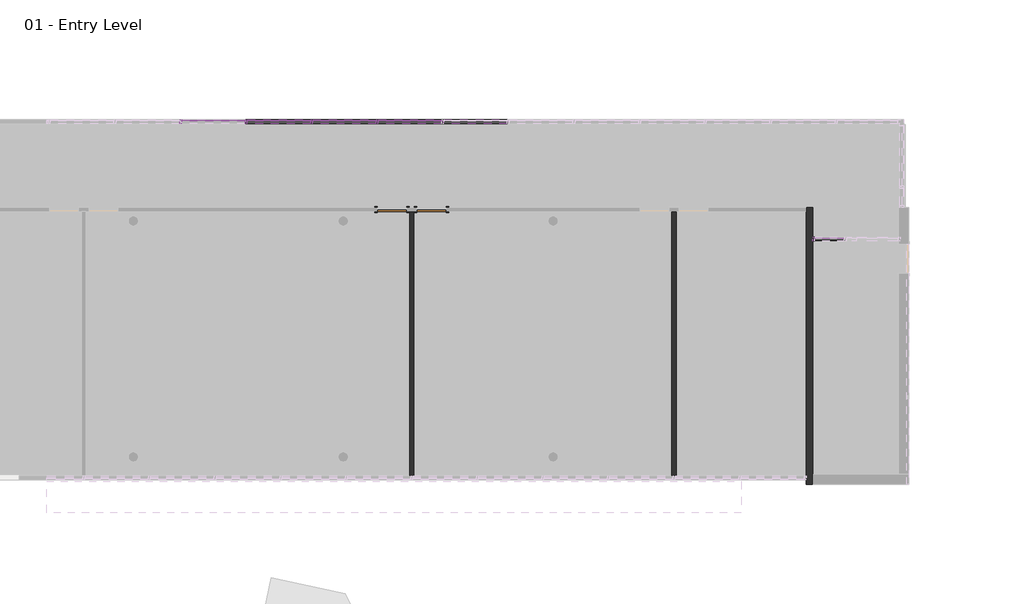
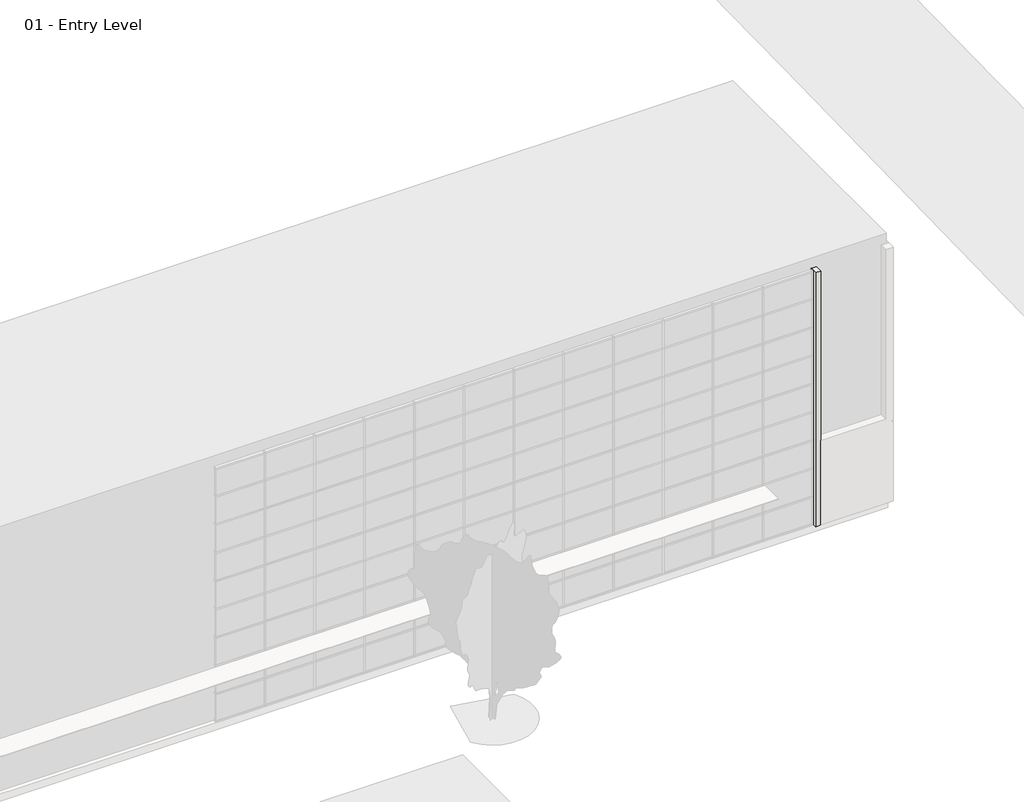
# One storey, part 20 of 34: 82 members, 38 plates, 3 doors, 3 walls.
"""IFC4 building model written with IfcOpenShell, lengths in millimetres."""

from ifc_helpers import new_model, si_unit, origin, origin_with_axes, place, context, project, spatial, polyline, outline, extrude, faceted_brep, transform, mapped, element, save
from components import curtain_wall_sgl_glass_curtain_wall_sgl_glass_ab2568d1, door_a1797ceb, door_a3eb833a, member_2b49869a, member_9193c932, member_391b434c, member_9e90ae50, member_c327c56d, member_a50b3cda, system_panel_glazed_1b9d6098, system_panel_glazed_70da479d, system_panel_glazed_63e32c76, system_panel_glazed_72fe8651

model = new_model("IFC4")

# Units and contexts
model_context = context("Model", 3, world=origin())
ifc_project = project(units=[si_unit("LENGTHUNIT", "METRE", prefix="MILLI")], contexts=[model_context])

# Site, building, storey
site = spatial("IfcSite", under=ifc_project)
building = spatial("IfcBuilding", under=site)
storey = spatial("IfcBuildingStorey", under=building, Name="01 - Entry Level", Elevation=0.0)

# Doors
placement = place(None, origin())
curtain_wall_sgl_glass_curtain_wall_sgl_glass_shape = curtain_wall_sgl_glass_curtain_wall_sgl_glass_ab2568d1(model_context)
element("IfcDoor", 1, ObjectType="Curtain Wall Sgl Glass : Curtain Wall Sgl Glass", at=placement, inside=storey, context=model_context, shape_type="MappedRepresentation", body=[
    mapped(curtain_wall_sgl_glass_curtain_wall_sgl_glass_shape, transform((63869.2207476, 7356.4, 0.0), x_axis=(-1.0, 0.0, 0.0), y_axis=(0.0, -1.0, 0.0), z_axis=(0.0, 0.0, 1.0))),
])
door_shape = door_a1797ceb(model_context)
element("IfcDoor", 2, ObjectType="Single-Flush : 36\" x 84\"", at=placement, inside=storey, context=model_context, shape_type="MappedRepresentation", body=[
    mapped(door_shape, transform((51524.8207476, 8270.8, 0.0), x_axis=(-1.0, 0.0, 0.0), y_axis=(0.0, -1.0, 0.0), z_axis=(0.0, 0.0, 1.0))),
])
door_2_shape = door_a3eb833a(model_context)
element("IfcDoor", 3, ObjectType="Single-Flush : 36\" x 84\"", at=placement, inside=storey, context=model_context, shape_type="MappedRepresentation", body=[
    mapped(door_2_shape, transform((50305.6207476, 8270.8, 0.0), x_axis=(1.0, 0.0, 0.0), y_axis=(0.0, 1.0, 0.0), z_axis=(0.0, 0.0, 1.0))),
])

# Members
member_shape = member_2b49869a(model_context)
element("IfcMember", 4, ObjectType="Rectangular Mullion : 2.5\" x 5\" rectangular", at=placement, inside=storey, context=model_context, shape_type="MappedRepresentation", body=[
    mapped(member_shape, transform((49848.4207476, 11001.3, 9753.6), x_axis=(-1.0, 0.0, 0.0), y_axis=(0.0, 1.0, 0.0), z_axis=(0.0, 0.0, -1.0))),
])
element("IfcMember", 5, ObjectType="Rectangular Mullion : 2.5\" x 5\" rectangular", at=placement, inside=storey, context=model_context, shape_type="MappedRepresentation", body=[
    mapped(member_shape, transform((47816.4207476, 11001.3, 9753.6), x_axis=(-1.0, 0.0, 0.0), y_axis=(0.0, 1.0, 0.0), z_axis=(0.0, 0.0, -1.0))),
])
element("IfcMember", 6, ObjectType="Rectangular Mullion : 2.5\" x 5\" rectangular", at=placement, inside=storey, context=model_context, shape_type="MappedRepresentation", body=[
    mapped(member_shape, transform((45784.4207476, 11001.3, 9753.6), x_axis=(-1.0, 0.0, 0.0), y_axis=(0.0, 1.0, 0.0), z_axis=(0.0, 0.0, -1.0))),
])
element("IfcMember", 7, ObjectType="Rectangular Mullion : 2.5\" x 5\" rectangular", at=placement, inside=storey, context=model_context, shape_type="MappedRepresentation", body=[
    mapped(member_shape, transform((43752.4207476, 11001.3, 9753.6), x_axis=(-1.0, 0.0, 0.0), y_axis=(0.0, 1.0, 0.0), z_axis=(0.0, 0.0, -1.0))),
])
member_2_shape = member_9193c932(model_context)
element("IfcMember", 8, ObjectType="Rectangular Mullion : 2.5\" x 5\" rectangular", at=placement, inside=storey, context=model_context, shape_type="MappedRepresentation", body=[
    mapped(member_2_shape, transform((63348.5207476, 7356.4, 3403.6), x_axis=(-1.0, 0.0, 0.0), y_axis=(0.0, -1.0, 0.0), z_axis=(0.0, 0.0, 1.0))),
])
member_3_shape = member_391b434c(model_context)
element("IfcMember", 9, ObjectType="Rectangular Mullion : 2.5\" x 5\" rectangular", at=placement, inside=storey, context=model_context, shape_type="MappedRepresentation", body=[
    mapped(member_3_shape, transform((51912.1707476, 11001.3, 10972.8), x_axis=(0.0, 0.0, 1.0), y_axis=(0.0, 1.0, 0.0), z_axis=(-1.0, 0.0, 0.0))),
])
element("IfcMember", 10, ObjectType="Rectangular Mullion : 2.5\" x 5\" rectangular", at=placement, inside=storey, context=model_context, shape_type="MappedRepresentation", body=[
    mapped(member_3_shape, transform((49880.1707476, 11001.3, 10972.8), x_axis=(0.0, 0.0, 1.0), y_axis=(0.0, 1.0, 0.0), z_axis=(-1.0, 0.0, 0.0))),
])
element("IfcMember", 11, ObjectType="Rectangular Mullion : 2.5\" x 5\" rectangular", at=placement, inside=storey, context=model_context, shape_type="MappedRepresentation", body=[
    mapped(member_3_shape, transform((47848.1707476, 11001.3, 10972.8), x_axis=(0.0, 0.0, 1.0), y_axis=(0.0, 1.0, 0.0), z_axis=(-1.0, 0.0, 0.0))),
])
element("IfcMember", 12, ObjectType="Rectangular Mullion : 2.5\" x 5\" rectangular", at=placement, inside=storey, context=model_context, shape_type="MappedRepresentation", body=[
    mapped(member_3_shape, transform((45816.1707476, 11001.3, 10972.8), x_axis=(0.0, 0.0, 1.0), y_axis=(0.0, 1.0, 0.0), z_axis=(-1.0, 0.0, 0.0))),
])
element("IfcMember", 13, ObjectType="Rectangular Mullion : 2.5\" x 5\" rectangular", at=placement, inside=storey, context=model_context, shape_type="MappedRepresentation", body=[
    mapped(member_3_shape, transform((51848.6707476, 11001.3, 0.0), x_axis=(0.0, 0.0, -1.0), y_axis=(0.0, 1.0, 0.0), z_axis=(1.0, 0.0, 0.0))),
])
element("IfcMember", 14, ObjectType="Rectangular Mullion : 2.5\" x 5\" rectangular", at=placement, inside=storey, context=model_context, shape_type="MappedRepresentation", body=[
    mapped(member_3_shape, transform((49816.6707476, 11001.3, 0.0), x_axis=(0.0, 0.0, -1.0), y_axis=(0.0, 1.0, 0.0), z_axis=(1.0, 0.0, 0.0))),
])
element("IfcMember", 15, ObjectType="Rectangular Mullion : 2.5\" x 5\" rectangular", at=placement, inside=storey, context=model_context, shape_type="MappedRepresentation", body=[
    mapped(member_3_shape, transform((47784.6707476, 11001.3, 0.0), x_axis=(0.0, 0.0, -1.0), y_axis=(0.0, 1.0, 0.0), z_axis=(1.0, 0.0, 0.0))),
])
element("IfcMember", 16, ObjectType="Rectangular Mullion : 2.5\" x 5\" rectangular", at=placement, inside=storey, context=model_context, shape_type="MappedRepresentation", body=[
    mapped(member_3_shape, transform((45752.6707476, 11001.3, 0.0), x_axis=(0.0, 0.0, -1.0), y_axis=(0.0, 1.0, 0.0), z_axis=(1.0, 0.0, 0.0))),
])
member_4_shape = member_9e90ae50(model_context)
element("IfcMember", 17, ObjectType="Rectangular Mullion : 2.5\" x 5\" rectangular", at=placement, inside=storey, context=model_context, shape_type="MappedRepresentation", body=[
    mapped(member_4_shape, transform((51912.1707476, 11001.3, 1219.2), x_axis=(0.0, 0.0, 1.0), y_axis=(0.0, 1.0, 0.0), z_axis=(-1.0, 0.0, 0.0))),
])
element("IfcMember", 18, ObjectType="Rectangular Mullion : 2.5\" x 5\" rectangular", at=placement, inside=storey, context=model_context, shape_type="MappedRepresentation", body=[
    mapped(member_4_shape, transform((49880.1707476, 11001.3, 1219.2), x_axis=(0.0, 0.0, 1.0), y_axis=(0.0, 1.0, 0.0), z_axis=(-1.0, 0.0, 0.0))),
])
element("IfcMember", 19, ObjectType="Rectangular Mullion : 2.5\" x 5\" rectangular", at=placement, inside=storey, context=model_context, shape_type="MappedRepresentation", body=[
    mapped(member_4_shape, transform((47848.1707476, 11001.3, 1219.2), x_axis=(0.0, 0.0, 1.0), y_axis=(0.0, 1.0, 0.0), z_axis=(-1.0, 0.0, 0.0))),
])
element("IfcMember", 20, ObjectType="Rectangular Mullion : 2.5\" x 5\" rectangular", at=placement, inside=storey, context=model_context, shape_type="MappedRepresentation", body=[
    mapped(member_4_shape, transform((45816.1707476, 11001.3, 1219.2), x_axis=(0.0, 0.0, 1.0), y_axis=(0.0, 1.0, 0.0), z_axis=(-1.0, 0.0, 0.0))),
])
element("IfcMember", 21, ObjectType="Rectangular Mullion : 2.5\" x 5\" rectangular", at=placement, inside=storey, context=model_context, shape_type="MappedRepresentation", body=[
    mapped(member_4_shape, transform((51912.1707476, 11001.3, 2438.4), x_axis=(0.0, 0.0, 1.0), y_axis=(0.0, 1.0, 0.0), z_axis=(-1.0, 0.0, 0.0))),
])
element("IfcMember", 22, ObjectType="Rectangular Mullion : 2.5\" x 5\" rectangular", at=placement, inside=storey, context=model_context, shape_type="MappedRepresentation", body=[
    mapped(member_4_shape, transform((49880.1707476, 11001.3, 2438.4), x_axis=(0.0, 0.0, 1.0), y_axis=(0.0, 1.0, 0.0), z_axis=(-1.0, 0.0, 0.0))),
])
element("IfcMember", 23, ObjectType="Rectangular Mullion : 2.5\" x 5\" rectangular", at=placement, inside=storey, context=model_context, shape_type="MappedRepresentation", body=[
    mapped(member_4_shape, transform((47848.1707476, 11001.3, 2438.4), x_axis=(0.0, 0.0, 1.0), y_axis=(0.0, 1.0, 0.0), z_axis=(-1.0, 0.0, 0.0))),
])
element("IfcMember", 24, ObjectType="Rectangular Mullion : 2.5\" x 5\" rectangular", at=placement, inside=storey, context=model_context, shape_type="MappedRepresentation", body=[
    mapped(member_4_shape, transform((45816.1707476, 11001.3, 2438.4), x_axis=(0.0, 0.0, 1.0), y_axis=(0.0, 1.0, 0.0), z_axis=(-1.0, 0.0, 0.0))),
])
element("IfcMember", 25, ObjectType="Rectangular Mullion : 2.5\" x 5\" rectangular", at=placement, inside=storey, context=model_context, shape_type="MappedRepresentation", body=[
    mapped(member_4_shape, transform((51912.1707476, 11001.3, 3657.6), x_axis=(0.0, 0.0, 1.0), y_axis=(0.0, 1.0, 0.0), z_axis=(-1.0, 0.0, 0.0))),
])
element("IfcMember", 26, ObjectType="Rectangular Mullion : 2.5\" x 5\" rectangular", at=placement, inside=storey, context=model_context, shape_type="MappedRepresentation", body=[
    mapped(member_4_shape, transform((49880.1707476, 11001.3, 3657.6), x_axis=(0.0, 0.0, 1.0), y_axis=(0.0, 1.0, 0.0), z_axis=(-1.0, 0.0, 0.0))),
])
element("IfcMember", 27, ObjectType="Rectangular Mullion : 2.5\" x 5\" rectangular", at=placement, inside=storey, context=model_context, shape_type="MappedRepresentation", body=[
    mapped(member_4_shape, transform((47848.1707476, 11001.3, 3657.6), x_axis=(0.0, 0.0, 1.0), y_axis=(0.0, 1.0, 0.0), z_axis=(-1.0, 0.0, 0.0))),
])
element("IfcMember", 28, ObjectType="Rectangular Mullion : 2.5\" x 5\" rectangular", at=placement, inside=storey, context=model_context, shape_type="MappedRepresentation", body=[
    mapped(member_4_shape, transform((45816.1707476, 11001.3, 3657.6), x_axis=(0.0, 0.0, 1.0), y_axis=(0.0, 1.0, 0.0), z_axis=(-1.0, 0.0, 0.0))),
])
element("IfcMember", 29, ObjectType="Rectangular Mullion : 2.5\" x 5\" rectangular", at=placement, inside=storey, context=model_context, shape_type="MappedRepresentation", body=[
    mapped(member_4_shape, transform((51912.1707476, 11001.3, 4876.8), x_axis=(0.0, 0.0, 1.0), y_axis=(0.0, 1.0, 0.0), z_axis=(-1.0, 0.0, 0.0))),
])
element("IfcMember", 30, ObjectType="Rectangular Mullion : 2.5\" x 5\" rectangular", at=placement, inside=storey, context=model_context, shape_type="MappedRepresentation", body=[
    mapped(member_4_shape, transform((49880.1707476, 11001.3, 4876.8), x_axis=(0.0, 0.0, 1.0), y_axis=(0.0, 1.0, 0.0), z_axis=(-1.0, 0.0, 0.0))),
])
element("IfcMember", 31, ObjectType="Rectangular Mullion : 2.5\" x 5\" rectangular", at=placement, inside=storey, context=model_context, shape_type="MappedRepresentation", body=[
    mapped(member_4_shape, transform((47848.1707476, 11001.3, 4876.8), x_axis=(0.0, 0.0, 1.0), y_axis=(0.0, 1.0, 0.0), z_axis=(-1.0, 0.0, 0.0))),
])
element("IfcMember", 32, ObjectType="Rectangular Mullion : 2.5\" x 5\" rectangular", at=placement, inside=storey, context=model_context, shape_type="MappedRepresentation", body=[
    mapped(member_4_shape, transform((45816.1707476, 11001.3, 4876.8), x_axis=(0.0, 0.0, 1.0), y_axis=(0.0, 1.0, 0.0), z_axis=(-1.0, 0.0, 0.0))),
])
element("IfcMember", 33, ObjectType="Rectangular Mullion : 2.5\" x 5\" rectangular", at=placement, inside=storey, context=model_context, shape_type="MappedRepresentation", body=[
    mapped(member_4_shape, transform((51912.1707476, 11001.3, 6096.0), x_axis=(0.0, 0.0, 1.0), y_axis=(0.0, 1.0, 0.0), z_axis=(-1.0, 0.0, 0.0))),
])
element("IfcMember", 34, ObjectType="Rectangular Mullion : 2.5\" x 5\" rectangular", at=placement, inside=storey, context=model_context, shape_type="MappedRepresentation", body=[
    mapped(member_4_shape, transform((49880.1707476, 11001.3, 6096.0), x_axis=(0.0, 0.0, 1.0), y_axis=(0.0, 1.0, 0.0), z_axis=(-1.0, 0.0, 0.0))),
])
element("IfcMember", 35, ObjectType="Rectangular Mullion : 2.5\" x 5\" rectangular", at=placement, inside=storey, context=model_context, shape_type="MappedRepresentation", body=[
    mapped(member_4_shape, transform((47848.1707476, 11001.3, 6096.0), x_axis=(0.0, 0.0, 1.0), y_axis=(0.0, 1.0, 0.0), z_axis=(-1.0, 0.0, 0.0))),
])
element("IfcMember", 36, ObjectType="Rectangular Mullion : 2.5\" x 5\" rectangular", at=placement, inside=storey, context=model_context, shape_type="MappedRepresentation", body=[
    mapped(member_4_shape, transform((45816.1707476, 11001.3, 6096.0), x_axis=(0.0, 0.0, 1.0), y_axis=(0.0, 1.0, 0.0), z_axis=(-1.0, 0.0, 0.0))),
])
element("IfcMember", 37, ObjectType="Rectangular Mullion : 2.5\" x 5\" rectangular", at=placement, inside=storey, context=model_context, shape_type="MappedRepresentation", body=[
    mapped(member_4_shape, transform((51912.1707476, 11001.3, 7315.2), x_axis=(0.0, 0.0, 1.0), y_axis=(0.0, 1.0, 0.0), z_axis=(-1.0, 0.0, 0.0))),
])
element("IfcMember", 38, ObjectType="Rectangular Mullion : 2.5\" x 5\" rectangular", at=placement, inside=storey, context=model_context, shape_type="MappedRepresentation", body=[
    mapped(member_4_shape, transform((49880.1707476, 11001.3, 7315.2), x_axis=(0.0, 0.0, 1.0), y_axis=(0.0, 1.0, 0.0), z_axis=(-1.0, 0.0, 0.0))),
])
element("IfcMember", 39, ObjectType="Rectangular Mullion : 2.5\" x 5\" rectangular", at=placement, inside=storey, context=model_context, shape_type="MappedRepresentation", body=[
    mapped(member_4_shape, transform((47848.1707476, 11001.3, 7315.2), x_axis=(0.0, 0.0, 1.0), y_axis=(0.0, 1.0, 0.0), z_axis=(-1.0, 0.0, 0.0))),
])
element("IfcMember", 40, ObjectType="Rectangular Mullion : 2.5\" x 5\" rectangular", at=placement, inside=storey, context=model_context, shape_type="MappedRepresentation", body=[
    mapped(member_4_shape, transform((45816.1707476, 11001.3, 7315.2), x_axis=(0.0, 0.0, 1.0), y_axis=(0.0, 1.0, 0.0), z_axis=(-1.0, 0.0, 0.0))),
])
element("IfcMember", 41, ObjectType="Rectangular Mullion : 2.5\" x 5\" rectangular", at=placement, inside=storey, context=model_context, shape_type="MappedRepresentation", body=[
    mapped(member_4_shape, transform((51912.1707476, 11001.3, 8534.4), x_axis=(0.0, 0.0, 1.0), y_axis=(0.0, 1.0, 0.0), z_axis=(-1.0, 0.0, 0.0))),
])
element("IfcMember", 42, ObjectType="Rectangular Mullion : 2.5\" x 5\" rectangular", at=placement, inside=storey, context=model_context, shape_type="MappedRepresentation", body=[
    mapped(member_4_shape, transform((49880.1707476, 11001.3, 8534.4), x_axis=(0.0, 0.0, 1.0), y_axis=(0.0, 1.0, 0.0), z_axis=(-1.0, 0.0, 0.0))),
])
element("IfcMember", 43, ObjectType="Rectangular Mullion : 2.5\" x 5\" rectangular", at=placement, inside=storey, context=model_context, shape_type="MappedRepresentation", body=[
    mapped(member_4_shape, transform((47848.1707476, 11001.3, 8534.4), x_axis=(0.0, 0.0, 1.0), y_axis=(0.0, 1.0, 0.0), z_axis=(-1.0, 0.0, 0.0))),
])
element("IfcMember", 44, ObjectType="Rectangular Mullion : 2.5\" x 5\" rectangular", at=placement, inside=storey, context=model_context, shape_type="MappedRepresentation", body=[
    mapped(member_4_shape, transform((45816.1707476, 11001.3, 8534.4), x_axis=(0.0, 0.0, 1.0), y_axis=(0.0, 1.0, 0.0), z_axis=(-1.0, 0.0, 0.0))),
])
element("IfcMember", 45, ObjectType="Rectangular Mullion : 2.5\" x 5\" rectangular", at=placement, inside=storey, context=model_context, shape_type="MappedRepresentation", body=[
    mapped(member_4_shape, transform((51912.1707476, 11001.3, 9753.6), x_axis=(0.0, 0.0, 1.0), y_axis=(0.0, 1.0, 0.0), z_axis=(-1.0, 0.0, 0.0))),
])
element("IfcMember", 46, ObjectType="Rectangular Mullion : 2.5\" x 5\" rectangular", at=placement, inside=storey, context=model_context, shape_type="MappedRepresentation", body=[
    mapped(member_4_shape, transform((49880.1707476, 11001.3, 9753.6), x_axis=(0.0, 0.0, 1.0), y_axis=(0.0, 1.0, 0.0), z_axis=(-1.0, 0.0, 0.0))),
])
element("IfcMember", 47, ObjectType="Rectangular Mullion : 2.5\" x 5\" rectangular", at=placement, inside=storey, context=model_context, shape_type="MappedRepresentation", body=[
    mapped(member_4_shape, transform((47848.1707476, 11001.3, 9753.6), x_axis=(0.0, 0.0, 1.0), y_axis=(0.0, 1.0, 0.0), z_axis=(-1.0, 0.0, 0.0))),
])
element("IfcMember", 48, ObjectType="Rectangular Mullion : 2.5\" x 5\" rectangular", at=placement, inside=storey, context=model_context, shape_type="MappedRepresentation", body=[
    mapped(member_4_shape, transform((45816.1707476, 11001.3, 9753.6), x_axis=(0.0, 0.0, 1.0), y_axis=(0.0, 1.0, 0.0), z_axis=(-1.0, 0.0, 0.0))),
])
element("IfcMember", 49, ObjectType="Rectangular Mullion : 2.5\" x 5\" rectangular", at=placement, inside=storey, context=model_context, shape_type="MappedRepresentation", body=[
    mapped(member_shape, transform((51880.4207476, 11001.3, 0.0), x_axis=(-1.0, 0.0, 0.0), y_axis=(0.0, 1.0, 0.0), z_axis=(0.0, 0.0, -1.0))),
])
element("IfcMember", 50, ObjectType="Rectangular Mullion : 2.5\" x 5\" rectangular", at=placement, inside=storey, context=model_context, shape_type="MappedRepresentation", body=[
    mapped(member_shape, transform((49848.4207476, 11001.3, 0.0), x_axis=(-1.0, 0.0, 0.0), y_axis=(0.0, 1.0, 0.0), z_axis=(0.0, 0.0, -1.0))),
])
element("IfcMember", 51, ObjectType="Rectangular Mullion : 2.5\" x 5\" rectangular", at=placement, inside=storey, context=model_context, shape_type="MappedRepresentation", body=[
    mapped(member_shape, transform((47816.4207476, 11001.3, 0.0), x_axis=(-1.0, 0.0, 0.0), y_axis=(0.0, 1.0, 0.0), z_axis=(0.0, 0.0, -1.0))),
])
element("IfcMember", 52, ObjectType="Rectangular Mullion : 2.5\" x 5\" rectangular", at=placement, inside=storey, context=model_context, shape_type="MappedRepresentation", body=[
    mapped(member_shape, transform((45784.4207476, 11001.3, 0.0), x_axis=(-1.0, 0.0, 0.0), y_axis=(0.0, 1.0, 0.0), z_axis=(0.0, 0.0, -1.0))),
])
element("IfcMember", 53, ObjectType="Rectangular Mullion : 2.5\" x 5\" rectangular", at=placement, inside=storey, context=model_context, shape_type="MappedRepresentation", body=[
    mapped(member_shape, transform((51880.4207476, 11001.3, 1219.2), x_axis=(-1.0, 0.0, 0.0), y_axis=(0.0, 1.0, 0.0), z_axis=(0.0, 0.0, -1.0))),
])
element("IfcMember", 54, ObjectType="Rectangular Mullion : 2.5\" x 5\" rectangular", at=placement, inside=storey, context=model_context, shape_type="MappedRepresentation", body=[
    mapped(member_shape, transform((49848.4207476, 11001.3, 1219.2), x_axis=(-1.0, 0.0, 0.0), y_axis=(0.0, 1.0, 0.0), z_axis=(0.0, 0.0, -1.0))),
])
element("IfcMember", 55, ObjectType="Rectangular Mullion : 2.5\" x 5\" rectangular", at=placement, inside=storey, context=model_context, shape_type="MappedRepresentation", body=[
    mapped(member_shape, transform((47816.4207476, 11001.3, 1219.2), x_axis=(-1.0, 0.0, 0.0), y_axis=(0.0, 1.0, 0.0), z_axis=(0.0, 0.0, -1.0))),
])
element("IfcMember", 56, ObjectType="Rectangular Mullion : 2.5\" x 5\" rectangular", at=placement, inside=storey, context=model_context, shape_type="MappedRepresentation", body=[
    mapped(member_shape, transform((45784.4207476, 11001.3, 1219.2), x_axis=(-1.0, 0.0, 0.0), y_axis=(0.0, 1.0, 0.0), z_axis=(0.0, 0.0, -1.0))),
])
element("IfcMember", 57, ObjectType="Rectangular Mullion : 2.5\" x 5\" rectangular", at=placement, inside=storey, context=model_context, shape_type="MappedRepresentation", body=[
    mapped(member_shape, transform((51880.4207476, 11001.3, 2438.4), x_axis=(-1.0, 0.0, 0.0), y_axis=(0.0, 1.0, 0.0), z_axis=(0.0, 0.0, -1.0))),
])
element("IfcMember", 58, ObjectType="Rectangular Mullion : 2.5\" x 5\" rectangular", at=placement, inside=storey, context=model_context, shape_type="MappedRepresentation", body=[
    mapped(member_shape, transform((49848.4207476, 11001.3, 2438.4), x_axis=(-1.0, 0.0, 0.0), y_axis=(0.0, 1.0, 0.0), z_axis=(0.0, 0.0, -1.0))),
])
element("IfcMember", 59, ObjectType="Rectangular Mullion : 2.5\" x 5\" rectangular", at=placement, inside=storey, context=model_context, shape_type="MappedRepresentation", body=[
    mapped(member_shape, transform((47816.4207476, 11001.3, 2438.4), x_axis=(-1.0, 0.0, 0.0), y_axis=(0.0, 1.0, 0.0), z_axis=(0.0, 0.0, -1.0))),
])
element("IfcMember", 60, ObjectType="Rectangular Mullion : 2.5\" x 5\" rectangular", at=placement, inside=storey, context=model_context, shape_type="MappedRepresentation", body=[
    mapped(member_shape, transform((45784.4207476, 11001.3, 2438.4), x_axis=(-1.0, 0.0, 0.0), y_axis=(0.0, 1.0, 0.0), z_axis=(0.0, 0.0, -1.0))),
])
element("IfcMember", 61, ObjectType="Rectangular Mullion : 2.5\" x 5\" rectangular", at=placement, inside=storey, context=model_context, shape_type="MappedRepresentation", body=[
    mapped(member_shape, transform((51880.4207476, 11001.3, 3657.6), x_axis=(-1.0, 0.0, 0.0), y_axis=(0.0, 1.0, 0.0), z_axis=(0.0, 0.0, -1.0))),
])
element("IfcMember", 62, ObjectType="Rectangular Mullion : 2.5\" x 5\" rectangular", at=placement, inside=storey, context=model_context, shape_type="MappedRepresentation", body=[
    mapped(member_shape, transform((49848.4207476, 11001.3, 3657.6), x_axis=(-1.0, 0.0, 0.0), y_axis=(0.0, 1.0, 0.0), z_axis=(0.0, 0.0, -1.0))),
])
element("IfcMember", 63, ObjectType="Rectangular Mullion : 2.5\" x 5\" rectangular", at=placement, inside=storey, context=model_context, shape_type="MappedRepresentation", body=[
    mapped(member_shape, transform((47816.4207476, 11001.3, 3657.6), x_axis=(-1.0, 0.0, 0.0), y_axis=(0.0, 1.0, 0.0), z_axis=(0.0, 0.0, -1.0))),
])
element("IfcMember", 64, ObjectType="Rectangular Mullion : 2.5\" x 5\" rectangular", at=placement, inside=storey, context=model_context, shape_type="MappedRepresentation", body=[
    mapped(member_shape, transform((45784.4207476, 11001.3, 3657.6), x_axis=(-1.0, 0.0, 0.0), y_axis=(0.0, 1.0, 0.0), z_axis=(0.0, 0.0, -1.0))),
])
element("IfcMember", 65, ObjectType="Rectangular Mullion : 2.5\" x 5\" rectangular", at=placement, inside=storey, context=model_context, shape_type="MappedRepresentation", body=[
    mapped(member_shape, transform((51880.4207476, 11001.3, 4876.8), x_axis=(-1.0, 0.0, 0.0), y_axis=(0.0, 1.0, 0.0), z_axis=(0.0, 0.0, -1.0))),
])
element("IfcMember", 66, ObjectType="Rectangular Mullion : 2.5\" x 5\" rectangular", at=placement, inside=storey, context=model_context, shape_type="MappedRepresentation", body=[
    mapped(member_shape, transform((49848.4207476, 11001.3, 4876.8), x_axis=(-1.0, 0.0, 0.0), y_axis=(0.0, 1.0, 0.0), z_axis=(0.0, 0.0, -1.0))),
])
element("IfcMember", 67, ObjectType="Rectangular Mullion : 2.5\" x 5\" rectangular", at=placement, inside=storey, context=model_context, shape_type="MappedRepresentation", body=[
    mapped(member_shape, transform((47816.4207476, 11001.3, 4876.8), x_axis=(-1.0, 0.0, 0.0), y_axis=(0.0, 1.0, 0.0), z_axis=(0.0, 0.0, -1.0))),
])
element("IfcMember", 68, ObjectType="Rectangular Mullion : 2.5\" x 5\" rectangular", at=placement, inside=storey, context=model_context, shape_type="MappedRepresentation", body=[
    mapped(member_shape, transform((45784.4207476, 11001.3, 4876.8), x_axis=(-1.0, 0.0, 0.0), y_axis=(0.0, 1.0, 0.0), z_axis=(0.0, 0.0, -1.0))),
])
element("IfcMember", 69, ObjectType="Rectangular Mullion : 2.5\" x 5\" rectangular", at=placement, inside=storey, context=model_context, shape_type="MappedRepresentation", body=[
    mapped(member_shape, transform((43752.4207476, 11001.3, 4876.8), x_axis=(-1.0, 0.0, 0.0), y_axis=(0.0, 1.0, 0.0), z_axis=(0.0, 0.0, -1.0))),
])
element("IfcMember", 70, ObjectType="Rectangular Mullion : 2.5\" x 5\" rectangular", at=placement, inside=storey, context=model_context, shape_type="MappedRepresentation", body=[
    mapped(member_shape, transform((51880.4207476, 11001.3, 6096.0), x_axis=(-1.0, 0.0, 0.0), y_axis=(0.0, 1.0, 0.0), z_axis=(0.0, 0.0, -1.0))),
])
element("IfcMember", 71, ObjectType="Rectangular Mullion : 2.5\" x 5\" rectangular", at=placement, inside=storey, context=model_context, shape_type="MappedRepresentation", body=[
    mapped(member_shape, transform((49848.4207476, 11001.3, 6096.0), x_axis=(-1.0, 0.0, 0.0), y_axis=(0.0, 1.0, 0.0), z_axis=(0.0, 0.0, -1.0))),
])
element("IfcMember", 72, ObjectType="Rectangular Mullion : 2.5\" x 5\" rectangular", at=placement, inside=storey, context=model_context, shape_type="MappedRepresentation", body=[
    mapped(member_shape, transform((47816.4207476, 11001.3, 6096.0), x_axis=(-1.0, 0.0, 0.0), y_axis=(0.0, 1.0, 0.0), z_axis=(0.0, 0.0, -1.0))),
])
element("IfcMember", 73, ObjectType="Rectangular Mullion : 2.5\" x 5\" rectangular", at=placement, inside=storey, context=model_context, shape_type="MappedRepresentation", body=[
    mapped(member_shape, transform((45784.4207476, 11001.3, 6096.0), x_axis=(-1.0, 0.0, 0.0), y_axis=(0.0, 1.0, 0.0), z_axis=(0.0, 0.0, -1.0))),
])
element("IfcMember", 74, ObjectType="Rectangular Mullion : 2.5\" x 5\" rectangular", at=placement, inside=storey, context=model_context, shape_type="MappedRepresentation", body=[
    mapped(member_shape, transform((43752.4207476, 11001.3, 6096.0), x_axis=(-1.0, 0.0, 0.0), y_axis=(0.0, 1.0, 0.0), z_axis=(0.0, 0.0, -1.0))),
])
element("IfcMember", 75, ObjectType="Rectangular Mullion : 2.5\" x 5\" rectangular", at=placement, inside=storey, context=model_context, shape_type="MappedRepresentation", body=[
    mapped(member_shape, transform((51880.4207476, 11001.3, 7315.2), x_axis=(-1.0, 0.0, 0.0), y_axis=(0.0, 1.0, 0.0), z_axis=(0.0, 0.0, -1.0))),
])
element("IfcMember", 76, ObjectType="Rectangular Mullion : 2.5\" x 5\" rectangular", at=placement, inside=storey, context=model_context, shape_type="MappedRepresentation", body=[
    mapped(member_shape, transform((49848.4207476, 11001.3, 7315.2), x_axis=(-1.0, 0.0, 0.0), y_axis=(0.0, 1.0, 0.0), z_axis=(0.0, 0.0, -1.0))),
])
element("IfcMember", 77, ObjectType="Rectangular Mullion : 2.5\" x 5\" rectangular", at=placement, inside=storey, context=model_context, shape_type="MappedRepresentation", body=[
    mapped(member_shape, transform((47816.4207476, 11001.3, 7315.2), x_axis=(-1.0, 0.0, 0.0), y_axis=(0.0, 1.0, 0.0), z_axis=(0.0, 0.0, -1.0))),
])
element("IfcMember", 78, ObjectType="Rectangular Mullion : 2.5\" x 5\" rectangular", at=placement, inside=storey, context=model_context, shape_type="MappedRepresentation", body=[
    mapped(member_shape, transform((45784.4207476, 11001.3, 7315.2), x_axis=(-1.0, 0.0, 0.0), y_axis=(0.0, 1.0, 0.0), z_axis=(0.0, 0.0, -1.0))),
])
element("IfcMember", 79, ObjectType="Rectangular Mullion : 2.5\" x 5\" rectangular", at=placement, inside=storey, context=model_context, shape_type="MappedRepresentation", body=[
    mapped(member_shape, transform((43752.4207476, 11001.3, 7315.2), x_axis=(-1.0, 0.0, 0.0), y_axis=(0.0, 1.0, 0.0), z_axis=(0.0, 0.0, -1.0))),
])
element("IfcMember", 80, ObjectType="Rectangular Mullion : 2.5\" x 5\" rectangular", at=placement, inside=storey, context=model_context, shape_type="MappedRepresentation", body=[
    mapped(member_shape, transform((49848.4207476, 11001.3, 8534.4), x_axis=(-1.0, 0.0, 0.0), y_axis=(0.0, 1.0, 0.0), z_axis=(0.0, 0.0, -1.0))),
])
element("IfcMember", 81, ObjectType="Rectangular Mullion : 2.5\" x 5\" rectangular", at=placement, inside=storey, context=model_context, shape_type="MappedRepresentation", body=[
    mapped(member_shape, transform((47816.4207476, 11001.3, 8534.4), x_axis=(-1.0, 0.0, 0.0), y_axis=(0.0, 1.0, 0.0), z_axis=(0.0, 0.0, -1.0))),
])
element("IfcMember", 82, ObjectType="Rectangular Mullion : 2.5\" x 5\" rectangular", at=placement, inside=storey, context=model_context, shape_type="MappedRepresentation", body=[
    mapped(member_shape, transform((45784.4207476, 11001.3, 8534.4), x_axis=(-1.0, 0.0, 0.0), y_axis=(0.0, 1.0, 0.0), z_axis=(0.0, 0.0, -1.0))),
])
element("IfcMember", 83, ObjectType="Rectangular Mullion : 2.5\" x 5\" rectangular", at=placement, inside=storey, context=model_context, shape_type="MappedRepresentation", body=[
    mapped(member_shape, transform((43752.4207476, 11001.3, 8534.4), x_axis=(-1.0, 0.0, 0.0), y_axis=(0.0, 1.0, 0.0), z_axis=(0.0, 0.0, -1.0))),
])
member_5_shape = member_c327c56d(model_context)
element("IfcMember", 84, ObjectType="Rectangular Mullion : 2.5\" x 5\" rectangular", at=placement, inside=storey, context=model_context, shape_type="MappedRepresentation", body=[
    mapped(member_5_shape, transform((63348.5207476, 7356.4, 2438.4), x_axis=(-1.0, 0.0, 0.0), y_axis=(0.0, -1.0, 0.0), z_axis=(0.0, 0.0, 1.0))),
])
member_6_shape = member_a50b3cda(model_context)
element("IfcMember", 85, ObjectType="Rectangular Mullion : 2.5\" x 5\" rectangular", at=placement, inside=storey, context=model_context, shape_type="MappedRepresentation", body=[
    mapped(member_6_shape, transform((63348.5207476, 7356.4, 2165.35), x_axis=(-1.0, 0.0, 0.0), y_axis=(0.0, -1.0, 0.0), z_axis=(0.0, 0.0, 1.0))),
])

# Plates
system_panel_glazed_shape = system_panel_glazed_1b9d6098(model_context)
element("IfcPlate", 86, ObjectType="System Panel : Glazed", at=placement, inside=storey, context=model_context, shape_type="MappedRepresentation", body=[
    mapped(system_panel_glazed_shape, transform((50864.4207476, 11001.3, 63.5), x_axis=(-1.0, 0.0, 0.0), y_axis=(0.0, -1.0, 0.0), z_axis=(0.0, 0.0, 1.0))),
])
element("IfcPlate", 87, ObjectType="System Panel : Glazed", at=placement, inside=storey, context=model_context, shape_type="MappedRepresentation", body=[
    mapped(system_panel_glazed_shape, transform((48832.4207476, 11001.3, 63.5), x_axis=(-1.0, 0.0, 0.0), y_axis=(0.0, -1.0, 0.0), z_axis=(0.0, 0.0, 1.0))),
])
element("IfcPlate", 88, ObjectType="System Panel : Glazed", at=placement, inside=storey, context=model_context, shape_type="MappedRepresentation", body=[
    mapped(system_panel_glazed_shape, transform((46800.4207476, 11001.3, 63.5), x_axis=(-1.0, 0.0, 0.0), y_axis=(0.0, -1.0, 0.0), z_axis=(0.0, 0.0, 1.0))),
])
element("IfcPlate", 89, ObjectType="System Panel : Glazed", at=placement, inside=storey, context=model_context, shape_type="MappedRepresentation", body=[
    mapped(system_panel_glazed_shape, transform((44768.4207476, 11001.3, 63.5), x_axis=(-1.0, 0.0, 0.0), y_axis=(0.0, -1.0, 0.0), z_axis=(0.0, 0.0, 1.0))),
])
element("IfcPlate", 90, ObjectType="System Panel : Glazed", at=placement, inside=storey, context=model_context, shape_type="MappedRepresentation", body=[
    mapped(system_panel_glazed_shape, transform((50864.4207476, 11001.3, 9785.35), x_axis=(-1.0, 0.0, 0.0), y_axis=(0.0, -1.0, 0.0), z_axis=(0.0, 0.0, 1.0))),
])
element("IfcPlate", 91, ObjectType="System Panel : Glazed", at=placement, inside=storey, context=model_context, shape_type="MappedRepresentation", body=[
    mapped(system_panel_glazed_shape, transform((48832.4207476, 11001.3, 9785.35), x_axis=(-1.0, 0.0, 0.0), y_axis=(0.0, -1.0, 0.0), z_axis=(0.0, 0.0, 1.0))),
])
element("IfcPlate", 92, ObjectType="System Panel : Glazed", at=placement, inside=storey, context=model_context, shape_type="MappedRepresentation", body=[
    mapped(system_panel_glazed_shape, transform((46800.4207476, 11001.3, 9785.35), x_axis=(-1.0, 0.0, 0.0), y_axis=(0.0, -1.0, 0.0), z_axis=(0.0, 0.0, 1.0))),
])
element("IfcPlate", 93, ObjectType="System Panel : Glazed", at=placement, inside=storey, context=model_context, shape_type="MappedRepresentation", body=[
    mapped(system_panel_glazed_shape, transform((44768.4207476, 11001.3, 9785.35), x_axis=(-1.0, 0.0, 0.0), y_axis=(0.0, -1.0, 0.0), z_axis=(0.0, 0.0, 1.0))),
])
system_panel_glazed_2_shape = system_panel_glazed_70da479d(model_context)
element("IfcPlate", 94, ObjectType="System Panel : Glazed", at=placement, inside=storey, context=model_context, shape_type="MappedRepresentation", body=[
    mapped(system_panel_glazed_2_shape, transform((50864.4207476, 11001.3, 1250.95), x_axis=(-1.0, 0.0, 0.0), y_axis=(0.0, -1.0, 0.0), z_axis=(0.0, 0.0, 1.0))),
])
element("IfcPlate", 95, ObjectType="System Panel : Glazed", at=placement, inside=storey, context=model_context, shape_type="MappedRepresentation", body=[
    mapped(system_panel_glazed_2_shape, transform((48832.4207476, 11001.3, 1250.95), x_axis=(-1.0, 0.0, 0.0), y_axis=(0.0, -1.0, 0.0), z_axis=(0.0, 0.0, 1.0))),
])
element("IfcPlate", 96, ObjectType="System Panel : Glazed", at=placement, inside=storey, context=model_context, shape_type="MappedRepresentation", body=[
    mapped(system_panel_glazed_2_shape, transform((46800.4207476, 11001.3, 1250.95), x_axis=(-1.0, 0.0, 0.0), y_axis=(0.0, -1.0, 0.0), z_axis=(0.0, 0.0, 1.0))),
])
element("IfcPlate", 97, ObjectType="System Panel : Glazed", at=placement, inside=storey, context=model_context, shape_type="MappedRepresentation", body=[
    mapped(system_panel_glazed_2_shape, transform((44768.4207476, 11001.3, 1250.95), x_axis=(-1.0, 0.0, 0.0), y_axis=(0.0, -1.0, 0.0), z_axis=(0.0, 0.0, 1.0))),
])
element("IfcPlate", 98, ObjectType="System Panel : Glazed", at=placement, inside=storey, context=model_context, shape_type="MappedRepresentation", body=[
    mapped(system_panel_glazed_2_shape, transform((50864.4207476, 11001.3, 2470.15), x_axis=(-1.0, 0.0, 0.0), y_axis=(0.0, -1.0, 0.0), z_axis=(0.0, 0.0, 1.0))),
])
element("IfcPlate", 99, ObjectType="System Panel : Glazed", at=placement, inside=storey, context=model_context, shape_type="MappedRepresentation", body=[
    mapped(system_panel_glazed_2_shape, transform((48832.4207476, 11001.3, 2470.15), x_axis=(-1.0, 0.0, 0.0), y_axis=(0.0, -1.0, 0.0), z_axis=(0.0, 0.0, 1.0))),
])
element("IfcPlate", 100, ObjectType="System Panel : Glazed", at=placement, inside=storey, context=model_context, shape_type="MappedRepresentation", body=[
    mapped(system_panel_glazed_2_shape, transform((46800.4207476, 11001.3, 2470.15), x_axis=(-1.0, 0.0, 0.0), y_axis=(0.0, -1.0, 0.0), z_axis=(0.0, 0.0, 1.0))),
])
element("IfcPlate", 101, ObjectType="System Panel : Glazed", at=placement, inside=storey, context=model_context, shape_type="MappedRepresentation", body=[
    mapped(system_panel_glazed_2_shape, transform((44768.4207476, 11001.3, 2470.15), x_axis=(-1.0, 0.0, 0.0), y_axis=(0.0, -1.0, 0.0), z_axis=(0.0, 0.0, 1.0))),
])
element("IfcPlate", 102, ObjectType="System Panel : Glazed", at=placement, inside=storey, context=model_context, shape_type="MappedRepresentation", body=[
    mapped(system_panel_glazed_2_shape, transform((50864.4207476, 11001.3, 3689.35), x_axis=(-1.0, 0.0, 0.0), y_axis=(0.0, -1.0, 0.0), z_axis=(0.0, 0.0, 1.0))),
])
element("IfcPlate", 103, ObjectType="System Panel : Glazed", at=placement, inside=storey, context=model_context, shape_type="MappedRepresentation", body=[
    mapped(system_panel_glazed_2_shape, transform((48832.4207476, 11001.3, 3689.35), x_axis=(-1.0, 0.0, 0.0), y_axis=(0.0, -1.0, 0.0), z_axis=(0.0, 0.0, 1.0))),
])
element("IfcPlate", 104, ObjectType="System Panel : Glazed", at=placement, inside=storey, context=model_context, shape_type="MappedRepresentation", body=[
    mapped(system_panel_glazed_2_shape, transform((46800.4207476, 11001.3, 3689.35), x_axis=(-1.0, 0.0, 0.0), y_axis=(0.0, -1.0, 0.0), z_axis=(0.0, 0.0, 1.0))),
])
element("IfcPlate", 105, ObjectType="System Panel : Glazed", at=placement, inside=storey, context=model_context, shape_type="MappedRepresentation", body=[
    mapped(system_panel_glazed_2_shape, transform((44768.4207476, 11001.3, 3689.35), x_axis=(-1.0, 0.0, 0.0), y_axis=(0.0, -1.0, 0.0), z_axis=(0.0, 0.0, 1.0))),
])
element("IfcPlate", 106, ObjectType="System Panel : Glazed", at=placement, inside=storey, context=model_context, shape_type="MappedRepresentation", body=[
    mapped(system_panel_glazed_2_shape, transform((50864.4207476, 11001.3, 4908.55), x_axis=(-1.0, 0.0, 0.0), y_axis=(0.0, -1.0, 0.0), z_axis=(0.0, 0.0, 1.0))),
])
element("IfcPlate", 107, ObjectType="System Panel : Glazed", at=placement, inside=storey, context=model_context, shape_type="MappedRepresentation", body=[
    mapped(system_panel_glazed_2_shape, transform((48832.4207476, 11001.3, 4908.55), x_axis=(-1.0, 0.0, 0.0), y_axis=(0.0, -1.0, 0.0), z_axis=(0.0, 0.0, 1.0))),
])
element("IfcPlate", 108, ObjectType="System Panel : Glazed", at=placement, inside=storey, context=model_context, shape_type="MappedRepresentation", body=[
    mapped(system_panel_glazed_2_shape, transform((46800.4207476, 11001.3, 4908.55), x_axis=(-1.0, 0.0, 0.0), y_axis=(0.0, -1.0, 0.0), z_axis=(0.0, 0.0, 1.0))),
])
element("IfcPlate", 109, ObjectType="System Panel : Glazed", at=placement, inside=storey, context=model_context, shape_type="MappedRepresentation", body=[
    mapped(system_panel_glazed_2_shape, transform((44768.4207476, 11001.3, 4908.55), x_axis=(-1.0, 0.0, 0.0), y_axis=(0.0, -1.0, 0.0), z_axis=(0.0, 0.0, 1.0))),
])
element("IfcPlate", 110, ObjectType="System Panel : Glazed", at=placement, inside=storey, context=model_context, shape_type="MappedRepresentation", body=[
    mapped(system_panel_glazed_2_shape, transform((50864.4207476, 11001.3, 6127.75), x_axis=(-1.0, 0.0, 0.0), y_axis=(0.0, -1.0, 0.0), z_axis=(0.0, 0.0, 1.0))),
])
element("IfcPlate", 111, ObjectType="System Panel : Glazed", at=placement, inside=storey, context=model_context, shape_type="MappedRepresentation", body=[
    mapped(system_panel_glazed_2_shape, transform((48832.4207476, 11001.3, 6127.75), x_axis=(-1.0, 0.0, 0.0), y_axis=(0.0, -1.0, 0.0), z_axis=(0.0, 0.0, 1.0))),
])
element("IfcPlate", 112, ObjectType="System Panel : Glazed", at=placement, inside=storey, context=model_context, shape_type="MappedRepresentation", body=[
    mapped(system_panel_glazed_2_shape, transform((46800.4207476, 11001.3, 6127.75), x_axis=(-1.0, 0.0, 0.0), y_axis=(0.0, -1.0, 0.0), z_axis=(0.0, 0.0, 1.0))),
])
element("IfcPlate", 113, ObjectType="System Panel : Glazed", at=placement, inside=storey, context=model_context, shape_type="MappedRepresentation", body=[
    mapped(system_panel_glazed_2_shape, transform((44768.4207476, 11001.3, 6127.75), x_axis=(-1.0, 0.0, 0.0), y_axis=(0.0, -1.0, 0.0), z_axis=(0.0, 0.0, 1.0))),
])
element("IfcPlate", 114, ObjectType="System Panel : Glazed", at=placement, inside=storey, context=model_context, shape_type="MappedRepresentation", body=[
    mapped(system_panel_glazed_2_shape, transform((50864.4207476, 11001.3, 7346.95), x_axis=(-1.0, 0.0, 0.0), y_axis=(0.0, -1.0, 0.0), z_axis=(0.0, 0.0, 1.0))),
])
element("IfcPlate", 115, ObjectType="System Panel : Glazed", at=placement, inside=storey, context=model_context, shape_type="MappedRepresentation", body=[
    mapped(system_panel_glazed_2_shape, transform((48832.4207476, 11001.3, 7346.95), x_axis=(-1.0, 0.0, 0.0), y_axis=(0.0, -1.0, 0.0), z_axis=(0.0, 0.0, 1.0))),
])
element("IfcPlate", 116, ObjectType="System Panel : Glazed", at=placement, inside=storey, context=model_context, shape_type="MappedRepresentation", body=[
    mapped(system_panel_glazed_2_shape, transform((46800.4207476, 11001.3, 7346.95), x_axis=(-1.0, 0.0, 0.0), y_axis=(0.0, -1.0, 0.0), z_axis=(0.0, 0.0, 1.0))),
])
element("IfcPlate", 117, ObjectType="System Panel : Glazed", at=placement, inside=storey, context=model_context, shape_type="MappedRepresentation", body=[
    mapped(system_panel_glazed_2_shape, transform((44768.4207476, 11001.3, 7346.95), x_axis=(-1.0, 0.0, 0.0), y_axis=(0.0, -1.0, 0.0), z_axis=(0.0, 0.0, 1.0))),
])
element("IfcPlate", 118, ObjectType="System Panel : Glazed", at=placement, inside=storey, context=model_context, shape_type="MappedRepresentation", body=[
    mapped(system_panel_glazed_2_shape, transform((50864.4207476, 11001.3, 8566.15), x_axis=(-1.0, 0.0, 0.0), y_axis=(0.0, -1.0, 0.0), z_axis=(0.0, 0.0, 1.0))),
])
element("IfcPlate", 119, ObjectType="System Panel : Glazed", at=placement, inside=storey, context=model_context, shape_type="MappedRepresentation", body=[
    mapped(system_panel_glazed_2_shape, transform((48832.4207476, 11001.3, 8566.15), x_axis=(-1.0, 0.0, 0.0), y_axis=(0.0, -1.0, 0.0), z_axis=(0.0, 0.0, 1.0))),
])
element("IfcPlate", 120, ObjectType="System Panel : Glazed", at=placement, inside=storey, context=model_context, shape_type="MappedRepresentation", body=[
    mapped(system_panel_glazed_2_shape, transform((46800.4207476, 11001.3, 8566.15), x_axis=(-1.0, 0.0, 0.0), y_axis=(0.0, -1.0, 0.0), z_axis=(0.0, 0.0, 1.0))),
])
element("IfcPlate", 121, ObjectType="System Panel : Glazed", at=placement, inside=storey, context=model_context, shape_type="MappedRepresentation", body=[
    mapped(system_panel_glazed_2_shape, transform((44768.4207476, 11001.3, 8566.15), x_axis=(-1.0, 0.0, 0.0), y_axis=(0.0, -1.0, 0.0), z_axis=(0.0, 0.0, 1.0))),
])
system_panel_glazed_3_shape = system_panel_glazed_63e32c76(model_context)
element("IfcPlate", 122, ObjectType="System Panel : Glazed", at=placement, inside=storey, context=model_context, shape_type="MappedRepresentation", body=[
    mapped(system_panel_glazed_3_shape, transform((63869.2207476, 7356.4, 2470.15), x_axis=(1.0, 0.0, 0.0), y_axis=(0.0, 1.0, 0.0), z_axis=(0.0, 0.0, 1.0))),
])
system_panel_glazed_4_shape = system_panel_glazed_72fe8651(model_context)
element("IfcPlate", 123, ObjectType="System Panel : Glazed", at=placement, inside=storey, context=model_context, shape_type="MappedRepresentation", body=[
    mapped(system_panel_glazed_4_shape, transform((63869.2207476, 7356.4, 2197.1), x_axis=(1.0, 0.0, 0.0), y_axis=(0.0, 1.0, 0.0), z_axis=(0.0, 0.0, 1.0))),
])

# Walls
element("IfcWall", 124, ObjectType="Generic - 5\"", at=placement, inside=storey, context=model_context, shape_type="SweptSolid", body=[
    extrude(outline(polyline([(50978.7207476, 8207.3), (50978.7207476, 15.8), (50851.7207476, 15.8), (50851.7207476, 8207.3), (50978.7207476, 8207.3)])), origin_with_axes(), (0.0, 0.0, 1.0), 3403.6),
])
element("IfcWall", 125, ObjectType="Generic - 5\"", at=placement, inside=storey, context=model_context, shape_type="SweptSolid", body=[
    extrude(outline(polyline([(59106.7207476, 8207.3), (59106.7207476, 15.8), (58979.7207476, 15.8), (58979.7207476, 8207.3), (59106.7207476, 8207.3)])), origin_with_axes(), (0.0, 0.0, 1.0), 3403.6),
])
element("IfcWall", 126, ObjectType="Generic - 8\"", at=placement, inside=storey, context=model_context, shape_type="Brep", body=[
    faceted_brep([(63348.5207476, -254.075, 0.0), (63348.5207476, 53.9, 0.0), (63348.5207476, 8334.3, 0.0), (63348.5207476, 8334.3, 10972.8), (63348.5207476, -254.075, 10972.8), (63348.5207476, -254.075, 3657.6), (63145.3207476, -254.075, 0.0), (63145.3207476, -254.075, 10972.8), (63145.3207476, 8207.3, 10972.8), (63145.3207476, 8334.3, 10972.8), (63145.3207476, 8334.3, 7315.2), (63145.3207476, 8334.3, 7061.2), (63145.3207476, 8334.3, 3657.6), (63145.3207476, 8334.3, 3403.6), (63145.3207476, 8334.3, 0.0), (63145.3207476, 8207.3, 0.0)], [[[0, 1, 2, 3, 4, 5]], [[6, 7, 8, 9, 10, 11, 12, 13, 14, 15]], [[2, 1, 0, 6, 15, 14]], [[4, 3, 9, 8, 7]], [[0, 5, 4, 7, 6]], [[2, 14, 13, 12, 11, 10, 9, 3]]]),
])

save(model, "model.ifc")
